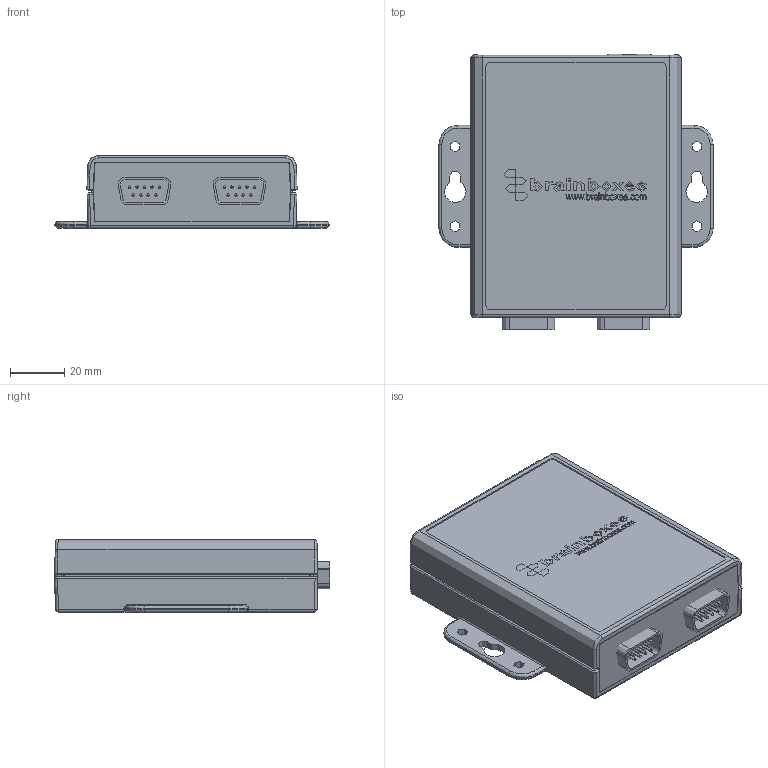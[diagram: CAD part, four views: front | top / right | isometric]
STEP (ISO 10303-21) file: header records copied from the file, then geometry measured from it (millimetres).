
FILE_DESCRIPTION(('STEP AP214'),'1');
FILE_NAME('ES-457 Cased PCB 3D Step.step','2021-01-19T12:59:14',(' '),(' '),'Spatial InterOp 3D','XD3DPlugin XRACreate',' ');
FILE_SCHEMA(('automotive_design'));
Length unit declared in the file: millimetre
Products named in the file (44): Submodel-AssyDefn_33; 00ESUSCASELIDNOHOLES.step; ES-457 Cased PCB 3D Step; Submodel-R:\Hardware\Product Design data\PCB Designs\Ethernet\90ES257R6\PCB\Released\3D Step\ES-457 Cased PCB 3D Step_PCB\3D\Input_S\00MAGJACKILED.xtd; 00MAGJACKILED; Submodel-00MAGJACKILED_part_simplified_MAGJACK_LEDS; DesignRootModel; Submodel-R:\Hardware\Product Design data\PCB Designs\Ethernet\90ES257R6\PCB\Released\3D Step\ES-457 Cased PCB 3D Step_PCB\3D\Input_S\SMD_ELEC_8X10.xtd; SMD_ELEC_8X10; Submodel-75470UF6V3_part_simplified_SMD_ELEC_8X10; Submodel-R:\Hardware\Product Design data\PCB Designs\Ethernet\90ES257R6\PCB\Released\3D Step\ES-457 Cased PCB 3D Step_PCB\3D\Input_S\80AG9703-2BR.xtd; 80AG9703-2BR; Submodel-80AG97032BR_part_simplified_AG9700; Submodel-R:\Hardware\Product Design data\PCB Designs\Ethernet\90ES257R6\PCB\Released\3D Step\ES-457 Cased PCB 3D Step_PCB\3D\Input_S\SMD_ELEC_D.xtd; SMD_ELEC_D; Submodel-7547UF50V_part_simplified_SMD_ELEC_D; Submodel-R:\Hardware\Product Design data\PCB Designs\Ethernet\90ES257R6\PCB\Released\3D Step\ES-457 Cased PCB 3D Step_PCB\3D\Input_S\6610UH5A5.xtd; 6610UH5A5; Submodel-6610UH5A5_part_simplified_SRR1260; Submodel-R:\Hardware\Product Design data\PCB Designs\Ethernet\90ES257R6\PCB\Released\3D Step\ES-457 Cased PCB 3D Step_PCB\3D\Input_S\SMC.xtd; SMC; Submodel-55TZ1K5SMC36V_part_simplified_SMC; Submodel-R:\Hardware\Product Design data\PCB Designs\Ethernet\90ES257R6\PCB\Released\3D Step\ES-457 Cased PCB 3D Step_PCB\3D\Input_S\00MRD09.xtd; 00MRD09; Submodel-00MRD09_part_simplified_DB9RA_slash_M; Submodel-R:\Hardware\Product Design data\PCB Designs\Ethernet\90ES257R6\PCB\Released\3D Step\ES-457 Cased PCB 3D Step_PCB\3D\Input_S\40SMTBUTTON_0.xtd; 40SMTBUTTON_0; Submodel-40SMTBUTTON_part_simplified_SMTBUTTON; Submodel-R:\Hardware\Product Design data\PCB Designs\Ethernet\90ES257R6\PCB\Released\3D Step\ES-457 Cased PCB 3D Step_PCB\3D\Input_S\50HEA4X2.xtd; 50HEA4X2; Submodel-50HEA4X2_part_simplified_H100MIL2X4; uid__9223372036854779115; Submodel-AssyDefn_32; CamdenEndPanel.sat; Submodel-AssyDefn_31; BrainboxesLogo.sat; Submodel-AssyDefn_29; 00ESUSCASEBASE.sat; Submodel-noModelForPart_MOUNTINGHOLE_2132796670; placementOutline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
Assembly tree (49 placements, depth 5):
  ES-457 Cased PCB 3D Step
    Submodel-AssyDefn_33
      00ESUSCASELIDNOHOLES.step
    DesignRootModel
      Submodel-00MAGJACKILED_part_simplified_MAGJACK_LEDS
        Submodel-R:\Hardware\Product Design data\PCB Designs\Ethernet\90ES257R6\PCB\Released\3D Step\ES-457 Cased PCB 3D Step_PCB\3D\Input_S\00MAGJACKILED.xtd
          00MAGJACKILED
      Submodel-75470UF6V3_part_simplified_SMD_ELEC_8X10
        Submodel-R:\Hardware\Product Design data\PCB Designs\Ethernet\90ES257R6\PCB\Released\3D Step\ES-457 Cased PCB 3D Step_PCB\3D\Input_S\SMD_ELEC_8X10.xtd
          SMD_ELEC_8X10
      Submodel-80AG97032BR_part_simplified_AG9700
        Submodel-R:\Hardware\Product Design data\PCB Designs\Ethernet\90ES257R6\PCB\Released\3D Step\ES-457 Cased PCB 3D Step_PCB\3D\Input_S\80AG9703-2BR.xtd
          80AG9703-2BR
      Submodel-7547UF50V_part_simplified_SMD_ELEC_D
        Submodel-R:\Hardware\Product Design data\PCB Designs\Ethernet\90ES257R6\PCB\Released\3D Step\ES-457 Cased PCB 3D Step_PCB\3D\Input_S\SMD_ELEC_D.xtd
          SMD_ELEC_D
      Submodel-6610UH5A5_part_simplified_SRR1260
        Submodel-R:\Hardware\Product Design data\PCB Designs\Ethernet\90ES257R6\PCB\Released\3D Step\ES-457 Cased PCB 3D Step_PCB\3D\Input_S\6610UH5A5.xtd
          6610UH5A5
      Submodel-55TZ1K5SMC36V_part_simplified_SMC  x3
        Submodel-R:\Hardware\Product Design data\PCB Designs\Ethernet\90ES257R6\PCB\Released\3D Step\ES-457 Cased PCB 3D Step_PCB\3D\Input_S\SMC.xtd
          SMC
      Submodel-00MRD09_part_simplified_DB9RA_slash_M  x2
        Submodel-R:\Hardware\Product Design data\PCB Designs\Ethernet\90ES257R6\PCB\Released\3D Step\ES-457 Cased PCB 3D Step_PCB\3D\Input_S\00MRD09.xtd
          00MRD09
      Submodel-40SMTBUTTON_part_simplified_SMTBUTTON
        Submodel-R:\Hardware\Product Design data\PCB Designs\Ethernet\90ES257R6\PCB\Released\3D Step\ES-457 Cased PCB 3D Step_PCB\3D\Input_S\40SMTBUTTON_0.xtd
          40SMTBUTTON_0
      Submodel-50HEA4X2_part_simplified_H100MIL2X4
        Submodel-R:\Hardware\Product Design data\PCB Designs\Ethernet\90ES257R6\PCB\Released\3D Step\ES-457 Cased PCB 3D Step_PCB\3D\Input_S\50HEA4X2.xtd
          50HEA4X2
      uid__9223372036854779115
      Submodel-AssyDefn_32  x2
        CamdenEndPanel.sat
      Submodel-AssyDefn_31  x2
        BrainboxesLogo.sat
      Submodel-AssyDefn_29
        00ESUSCASEBASE.sat
      Submodel-MOUNTINGHOLE_2132796670_part_MOUNTINGHOLE  x2
        Submodel-noModelForPart_MOUNTINGHOLE_2132796670
          placementOutline
      Submodel-00HEC3650_part_HEC3650
        Submodel-R:\Hardware\Product Design data\PCB Designs\Ethernet\90ES257R6\PCB\Released\3D Step\ES-457 Cased PCB 3D Step_PCB\3D\ImportedPartModels\00HEC3650_0.step
          00HEC3650_0.xtd
Bounding box: 101 x 101.41 x 27.1 mm (x, y, z)
Volume: 80025.9 mm3; surface area: 87209.7 mm2
Topology: 133 solids, 133 shells, 5591 faces, 14849 edges, 9542 vertices
Faces by surface type: plane 4026, cylinder 801, bspline 638, torus 60, sphere 53, cone 13
Full cylindrical faces by diameter (mm): 0.6 x2
Entity records: 189484 total; most frequent: CARTESIAN_POINT 33928, ORIENTED_EDGE 24902, DIRECTION 22739, EDGE_CURVE 12451, LINE 10107, VECTOR 10107, VERTEX_POINT 7979, AXIS2_PLACEMENT_3D 6316
